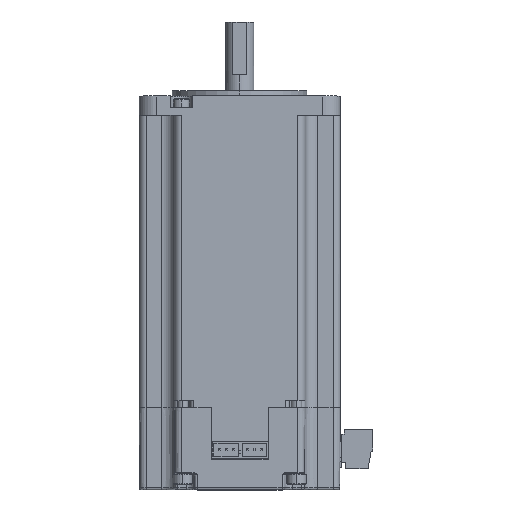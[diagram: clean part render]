
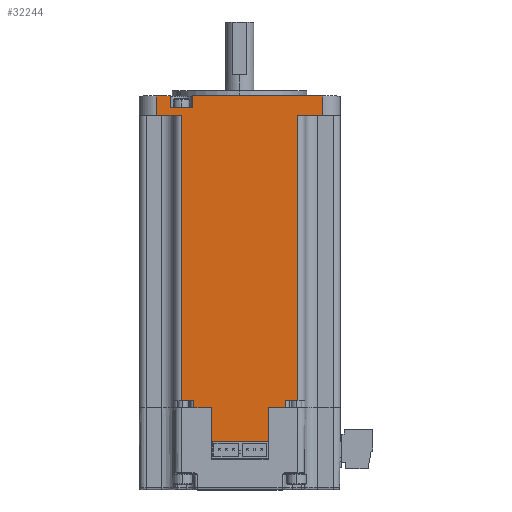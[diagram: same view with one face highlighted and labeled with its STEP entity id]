
A CAD part, top view. The second image highlights one B-rep face of the part: STEP entity #32244.
In plain terms, the highlighted planar face has unit normal (0, 0, 1).
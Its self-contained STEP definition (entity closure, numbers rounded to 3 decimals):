
#154=DIRECTION('',(1.,0.,0.));
#155=VECTOR('',#154,4.8);
#156=CARTESIAN_POINT('',(15.5,-88.25,0.));
#157=LINE('',#156,#155);
#158=DIRECTION('',(-1.,0.,0.));
#159=VECTOR('',#158,3.87);
#160=CARTESIAN_POINT('',(8.8,0.,0.));
#161=LINE('',#160,#159);
#162=DIRECTION('',(0.,-1.,0.));
#163=VECTOR('',#162,3.4);
#164=CARTESIAN_POINT('',(15.2,0.,0.));
#165=LINE('',#164,#163);
#166=DIRECTION('',(-1.,0.,0.));
#167=VECTOR('',#166,36.87);
#168=CARTESIAN_POINT('',(52.07,0.,0.));
#169=LINE('',#168,#167);
#170=DIRECTION('',(-1.,0.,0.));
#171=VECTOR('',#170,4.55);
#172=CARTESIAN_POINT('',(41.5,-88.25,0.));
#173=LINE('',#172,#171);
#174=DIRECTION('',(1.,0.,0.));
#175=VECTOR('',#174,0.35);
#176=CARTESIAN_POINT('',(36.6,-88.25,0.));
#177=LINE('',#176,#175);
#178=DIRECTION('',(0.,-1.,0.));
#179=VECTOR('',#178,9.5);
#180=CARTESIAN_POINT('',(20.6,-88.25,0.));
#181=LINE('',#180,#179);
#182=DIRECTION('',(1.,0.,0.));
#183=VECTOR('',#182,0.3);
#184=CARTESIAN_POINT('',(20.3,-88.25,0.));
#185=LINE('',#184,#183);
#286=DIRECTION('',(-1.,0.,0.));
#287=VECTOR('',#286,16.);
#288=CARTESIAN_POINT('',(36.6,-97.75,0.));
#289=LINE('',#288,#287);
#310=DIRECTION('',(0.,-1.,0.));
#311=VECTOR('',#310,9.5);
#312=CARTESIAN_POINT('',(36.6,-88.25,0.));
#313=LINE('',#312,#311);
#1570=DIRECTION('',(0.,1.,0.));
#1571=VECTOR('',#1570,2.);
#1572=CARTESIAN_POINT('',(41.5,-88.25,0.));
#1573=LINE('',#1572,#1571);
#1592=DIRECTION('',(-1.,0.,0.));
#1593=VECTOR('',#1592,3.5);
#1594=CARTESIAN_POINT('',(15.5,-86.25,0.));
#1595=LINE('',#1594,#1593);
#1721=DIRECTION('',(-1.,0.,0.));
#1722=VECTOR('',#1721,3.5);
#1723=CARTESIAN_POINT('',(45.,-86.25,0.));
#1724=LINE('',#1723,#1722);
#1788=DIRECTION('',(0.,-1.,0.));
#1789=VECTOR('',#1788,80.75);
#1790=CARTESIAN_POINT('',(12.,-5.5,0.));
#1791=LINE('',#1790,#1789);
#1811=DIRECTION('',(-1.,0.,0.));
#1812=VECTOR('',#1811,7.07);
#1813=CARTESIAN_POINT('',(12.,-5.5,0.));
#1814=LINE('',#1813,#1812);
#2292=DIRECTION('',(-1.,0.,0.));
#2293=VECTOR('',#2292,7.07);
#2294=CARTESIAN_POINT('',(52.07,-5.5,0.));
#2295=LINE('',#2294,#2293);
#2325=DIRECTION('',(0.,1.,0.));
#2326=VECTOR('',#2325,80.75);
#2327=CARTESIAN_POINT('',(45.,-86.25,0.));
#2328=LINE('',#2327,#2326);
#2329=DIRECTION('',(0.,1.,0.));
#2330=VECTOR('',#2329,5.5);
#2331=CARTESIAN_POINT('',(52.07,-5.5,0.));
#2332=LINE('',#2331,#2330);
#10786=DIRECTION('',(0.,-1.,0.));
#10787=VECTOR('',#10786,2.);
#10788=CARTESIAN_POINT('',(15.5,-86.25,0.));
#10789=LINE('',#10788,#10787);
#16478=DIRECTION('',(0.,-1.,0.));
#16479=VECTOR('',#16478,5.5);
#16480=CARTESIAN_POINT('',(4.93,0.,0.));
#16481=LINE('',#16480,#16479);
#25325=DIRECTION('',(0.,1.,0.));
#25326=VECTOR('',#25325,3.4);
#25327=CARTESIAN_POINT('',(8.8,-3.4,0.));
#25328=LINE('',#25327,#25326);
#25338=DIRECTION('',(-1.,0.,0.));
#25339=VECTOR('',#25338,6.4);
#25340=CARTESIAN_POINT('',(15.2,-3.4,0.));
#25341=LINE('',#25340,#25339);
#27348=CARTESIAN_POINT('',(15.2,0.,0.));
#27349=VERTEX_POINT('',#27348);
#27350=CARTESIAN_POINT('',(52.07,0.,0.));
#27351=VERTEX_POINT('',#27350);
#27390=CARTESIAN_POINT('',(4.93,0.,0.));
#27391=VERTEX_POINT('',#27390);
#27392=CARTESIAN_POINT('',(8.8,0.,0.));
#27393=VERTEX_POINT('',#27392);
#27414=CARTESIAN_POINT('',(15.2,-3.4,0.));
#27415=VERTEX_POINT('',#27414);
#27416=CARTESIAN_POINT('',(52.07,-5.5,0.));
#27417=CARTESIAN_POINT('',(45.,-5.5,0.));
#27418=VERTEX_POINT('',#27416);
#27419=VERTEX_POINT('',#27417);
#27420=CARTESIAN_POINT('',(45.,-86.25,0.));
#27421=VERTEX_POINT('',#27420);
#27422=CARTESIAN_POINT('',(12.,-5.5,0.));
#27423=CARTESIAN_POINT('',(12.,-86.25,0.));
#27424=VERTEX_POINT('',#27422);
#27425=VERTEX_POINT('',#27423);
#27426=CARTESIAN_POINT('',(4.93,-5.5,0.));
#27427=VERTEX_POINT('',#27426);
#27428=CARTESIAN_POINT('',(8.8,-3.4,0.));
#27429=VERTEX_POINT('',#27428);
#27889=CARTESIAN_POINT('',(20.6,-88.25,0.));
#27891=VERTEX_POINT('',#27889);
#27898=CARTESIAN_POINT('',(36.6,-88.25,0.));
#27900=VERTEX_POINT('',#27898);
#28303=CARTESIAN_POINT('',(20.6,-97.75,0.));
#28304=VERTEX_POINT('',#28303);
#28305=CARTESIAN_POINT('',(36.6,-97.75,0.));
#28306=VERTEX_POINT('',#28305);
#31635=CARTESIAN_POINT('',(15.5,-86.25,0.));
#31637=VERTEX_POINT('',#31635);
#31641=CARTESIAN_POINT('',(41.5,-86.25,0.));
#31643=VERTEX_POINT('',#31641);
#31655=CARTESIAN_POINT('',(15.5,-88.25,0.));
#31656=CARTESIAN_POINT('',(20.3,-88.25,0.));
#31657=VERTEX_POINT('',#31655);
#31658=VERTEX_POINT('',#31656);
#31659=CARTESIAN_POINT('',(41.5,-88.25,0.));
#31660=CARTESIAN_POINT('',(36.95,-88.25,0.));
#31661=VERTEX_POINT('',#31659);
#31662=VERTEX_POINT('',#31660);
#32196=CARTESIAN_POINT('',(28.5,-43.125,0.));
#32197=DIRECTION('',(0.,0.,1.));
#32198=DIRECTION('',(1.,0.,0.));
#32199=AXIS2_PLACEMENT_3D('',#32196,#32197,#32198);
#32200=PLANE('',#32199);
#32202=ORIENTED_EDGE('',*,*,#32201,.F.);
#32204=ORIENTED_EDGE('',*,*,#32203,.F.);
#32206=ORIENTED_EDGE('',*,*,#32205,.T.);
#32208=ORIENTED_EDGE('',*,*,#32207,.F.);
#32210=ORIENTED_EDGE('',*,*,#32209,.T.);
#32212=ORIENTED_EDGE('',*,*,#32211,.F.);
#32213=ORIENTED_EDGE('',*,*,#32069,.F.);
#32215=ORIENTED_EDGE('',*,*,#32214,.F.);
#32217=ORIENTED_EDGE('',*,*,#32216,.F.);
#32218=ORIENTED_EDGE('',*,*,#32181,.F.);
#32219=ORIENTED_EDGE('',*,*,#32111,.F.);
#32221=ORIENTED_EDGE('',*,*,#32220,.F.);
#32223=ORIENTED_EDGE('',*,*,#32222,.T.);
#32225=ORIENTED_EDGE('',*,*,#32224,.F.);
#32227=ORIENTED_EDGE('',*,*,#32226,.T.);
#32229=ORIENTED_EDGE('',*,*,#32228,.F.);
#32231=ORIENTED_EDGE('',*,*,#32230,.T.);
#32233=ORIENTED_EDGE('',*,*,#32232,.F.);
#32235=ORIENTED_EDGE('',*,*,#32234,.T.);
#32237=ORIENTED_EDGE('',*,*,#32236,.T.);
#32239=ORIENTED_EDGE('',*,*,#32238,.F.);
#32241=ORIENTED_EDGE('',*,*,#32240,.F.);
#32242=EDGE_LOOP('',(#32202,#32204,#32206,#32208,#32210,#32212,#32213,#32215,
#32217,#32218,#32219,#32221,#32223,#32225,#32227,#32229,#32231,#32233,#32235,
#32237,#32239,#32241));
#32243=FACE_OUTER_BOUND('',#32242,.F.);
#32244=ADVANCED_FACE('',(#32243),#32200,.T.);
#32069=EDGE_CURVE('',#27393,#27391,#161,.T.);
#32111=EDGE_CURVE('',#27351,#27349,#169,.T.);
#32181=EDGE_CURVE('',#27349,#27415,#165,.T.);
#32201=EDGE_CURVE('',#31657,#31658,#157,.T.);
#32203=EDGE_CURVE('',#31637,#31657,#10789,.T.);
#32205=EDGE_CURVE('',#31637,#27425,#1595,.T.);
#32207=EDGE_CURVE('',#27424,#27425,#1791,.T.);
#32209=EDGE_CURVE('',#27424,#27427,#1814,.T.);
#32211=EDGE_CURVE('',#27391,#27427,#16481,.T.);
#32214=EDGE_CURVE('',#27429,#27393,#25328,.T.);
#32216=EDGE_CURVE('',#27415,#27429,#25341,.T.);
#32220=EDGE_CURVE('',#27418,#27351,#2332,.T.);
#32222=EDGE_CURVE('',#27418,#27419,#2295,.T.);
#32224=EDGE_CURVE('',#27421,#27419,#2328,.T.);
#32226=EDGE_CURVE('',#27421,#31643,#1724,.T.);
#32228=EDGE_CURVE('',#31661,#31643,#1573,.T.);
#32230=EDGE_CURVE('',#31661,#31662,#173,.T.);
#32232=EDGE_CURVE('',#27900,#31662,#177,.T.);
#32234=EDGE_CURVE('',#27900,#28306,#313,.T.);
#32236=EDGE_CURVE('',#28306,#28304,#289,.T.);
#32238=EDGE_CURVE('',#27891,#28304,#181,.T.);
#32240=EDGE_CURVE('',#31658,#27891,#185,.T.);
